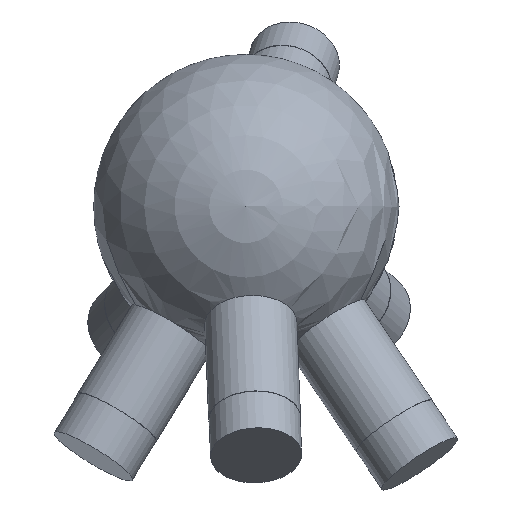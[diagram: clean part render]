
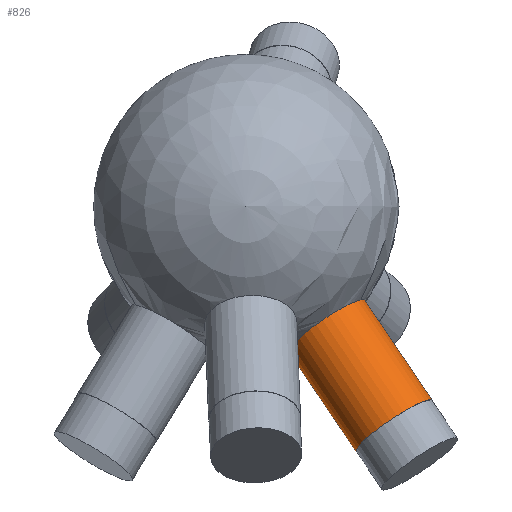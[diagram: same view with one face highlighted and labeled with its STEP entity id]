
A CAD part, top view. The second image highlights one B-rep face of the part: STEP entity #826.
In plain terms, the highlighted cylindrical face has radius 6 mm (diameter 12 mm), a full revolution.
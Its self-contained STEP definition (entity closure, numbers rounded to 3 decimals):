
#35 = SPHERICAL_SURFACE('',#36,20.);
#36 = AXIS2_PLACEMENT_3D('',#37,#38,#39);
#37 = CARTESIAN_POINT('',(0.,0.,0.));
#38 = DIRECTION('',(0.,0.,1.));
#39 = DIRECTION('',(1.,0.,-0.));
#430 = EDGE_CURVE('',#431,#431,#433,.T.);
#431 = VERTEX_POINT('',#432);
#432 = CARTESIAN_POINT('',(5.577,-18.966,3.031)
  );
#433 = SURFACE_CURVE('',#434,(#439,#501),.PCURVE_S1.);
#434 = CIRCLE('',#435,6.);
#435 = AXIS2_PLACEMENT_3D('',#436,#437,#438);
#436 = CARTESIAN_POINT('',(10.548,-15.606,3.031
    ));
#437 = DIRECTION('',(0.553,-0.818,0.159));
#438 = DIRECTION('',(0.829,0.56,0.));
#439 = PCURVE('',#35,#440);
#440 = DEFINITIONAL_REPRESENTATION('',(#441),#500);
#441 = B_SPLINE_CURVE_WITH_KNOTS('',8,(#442,#443,#444,#445,#446,#447,
    #448,#449,#450,#451,#452,#453,#454,#455,#456,#457,#458,#459,#460,
    #461,#462,#463,#464,#465,#466,#467,#468,#469,#470,#471,#472,#473,
    #474,#475,#476,#477,#478,#479,#480,#481,#482,#483,#484,#485,#486,
    #487,#488,#489,#490,#491,#492,#493,#494,#495,#496,#497,#498,#499),
  .UNSPECIFIED.,.F.,.F.,(9,7,7,7,7,7,7,7,9),(3.142,
    3.927,4.614,5.216,6.268,
    7.057,7.649,8.537,9.425),
  .UNSPECIFIED.);
#442 = CARTESIAN_POINT('',(4.998,0.152));
#443 = CARTESIAN_POINT('',(5.,0.123));
#444 = CARTESIAN_POINT('',(5.004,0.093));
#445 = CARTESIAN_POINT('',(5.012,0.065));
#446 = CARTESIAN_POINT('',(5.023,0.037));
#447 = CARTESIAN_POINT('',(5.036,0.01));
#448 = CARTESIAN_POINT('',(5.053,-0.014));
#449 = CARTESIAN_POINT('',(5.072,-0.037));
#450 = CARTESIAN_POINT('',(5.111,-0.076));
#451 = CARTESIAN_POINT('',(5.131,-0.092));
#452 = CARTESIAN_POINT('',(5.153,-0.107));
#453 = CARTESIAN_POINT('',(5.176,-0.119));
#454 = CARTESIAN_POINT('',(5.2,-0.129));
#455 = CARTESIAN_POINT('',(5.225,-0.136));
#456 = CARTESIAN_POINT('',(5.251,-0.141));
#457 = CARTESIAN_POINT('',(5.3,-0.146));
#458 = CARTESIAN_POINT('',(5.323,-0.146));
#459 = CARTESIAN_POINT('',(5.345,-0.145));
#460 = CARTESIAN_POINT('',(5.368,-0.141));
#461 = CARTESIAN_POINT('',(5.39,-0.135));
#462 = CARTESIAN_POINT('',(5.412,-0.128));
#463 = CARTESIAN_POINT('',(5.433,-0.119));
#464 = CARTESIAN_POINT('',(5.488,-0.089));
#465 = CARTESIAN_POINT('',(5.52,-0.065));
#466 = CARTESIAN_POINT('',(5.548,-0.037));
#467 = CARTESIAN_POINT('',(5.572,-0.004));
#468 = CARTESIAN_POINT('',(5.59,0.031));
#469 = CARTESIAN_POINT('',(5.604,0.069));
#470 = CARTESIAN_POINT('',(5.612,0.108));
#471 = CARTESIAN_POINT('',(5.617,0.177));
#472 = CARTESIAN_POINT('',(5.615,0.207));
#473 = CARTESIAN_POINT('',(5.611,0.236));
#474 = CARTESIAN_POINT('',(5.603,0.265));
#475 = CARTESIAN_POINT('',(5.592,0.293));
#476 = CARTESIAN_POINT('',(5.577,0.32));
#477 = CARTESIAN_POINT('',(5.559,0.344));
#478 = CARTESIAN_POINT('',(5.523,0.384));
#479 = CARTESIAN_POINT('',(5.506,0.399));
#480 = CARTESIAN_POINT('',(5.487,0.413));
#481 = CARTESIAN_POINT('',(5.467,0.426));
#482 = CARTESIAN_POINT('',(5.445,0.436));
#483 = CARTESIAN_POINT('',(5.422,0.445));
#484 = CARTESIAN_POINT('',(5.399,0.452));
#485 = CARTESIAN_POINT('',(5.339,0.465));
#486 = CARTESIAN_POINT('',(5.301,0.468));
#487 = CARTESIAN_POINT('',(5.263,0.466));
#488 = CARTESIAN_POINT('',(5.226,0.459));
#489 = CARTESIAN_POINT('',(5.19,0.448));
#490 = CARTESIAN_POINT('',(5.157,0.433));
#491 = CARTESIAN_POINT('',(5.127,0.414));
#492 = CARTESIAN_POINT('',(5.074,0.369));
#493 = CARTESIAN_POINT('',(5.051,0.343));
#494 = CARTESIAN_POINT('',(5.032,0.315));
#495 = CARTESIAN_POINT('',(5.017,0.284));
#496 = CARTESIAN_POINT('',(5.006,0.252));
#497 = CARTESIAN_POINT('',(4.999,0.219));
#498 = CARTESIAN_POINT('',(4.997,0.185));
#499 = CARTESIAN_POINT('',(4.998,0.152));
#500 = ( GEOMETRIC_REPRESENTATION_CONTEXT(2) 
PARAMETRIC_REPRESENTATION_CONTEXT() REPRESENTATION_CONTEXT('2D SPACE',''
  ) );
#501 = PCURVE('',#502,#507);
#502 = CYLINDRICAL_SURFACE('',#503,6.);
#503 = AXIS2_PLACEMENT_3D('',#504,#505,#506);
#504 = CARTESIAN_POINT('',(0.,0.,0.));
#505 = DIRECTION('',(0.553,-0.818,0.159));
#506 = DIRECTION('',(-0.829,-0.56,0.
    ));
#507 = DEFINITIONAL_REPRESENTATION('',(#508),#512);
#508 = LINE('',#509,#510);
#509 = CARTESIAN_POINT('',(-3.142,19.079));
#510 = VECTOR('',#511,1.);
#511 = DIRECTION('',(1.,0.));
#512 = ( GEOMETRIC_REPRESENTATION_CONTEXT(2) 
PARAMETRIC_REPRESENTATION_CONTEXT() REPRESENTATION_CONTEXT('2D SPACE',''
  ) );
#826 = ADVANCED_FACE('',(#827),#502,.T.);
#827 = FACE_BOUND('',#828,.T.);
#828 = EDGE_LOOP('',(#829,#852,#879,#880));
#829 = ORIENTED_EDGE('',*,*,#830,.T.);
#830 = EDGE_CURVE('',#431,#831,#833,.T.);
#831 = VERTEX_POINT('',#832);
#832 = CARTESIAN_POINT('',(14.4,-32.021,
    5.567));
#833 = SEAM_CURVE('',#834,(#838,#845),.PCURVE_S1.);
#834 = LINE('',#835,#836);
#835 = CARTESIAN_POINT('',(-4.971,-3.36,
    0.));
#836 = VECTOR('',#837,1.);
#837 = DIRECTION('',(0.553,-0.818,0.159));
#838 = PCURVE('',#502,#839);
#839 = DEFINITIONAL_REPRESENTATION('',(#840),#844);
#840 = LINE('',#841,#842);
#841 = CARTESIAN_POINT('',(6.283,-0.));
#842 = VECTOR('',#843,1.);
#843 = DIRECTION('',(0.,1.));
#844 = ( GEOMETRIC_REPRESENTATION_CONTEXT(2) 
PARAMETRIC_REPRESENTATION_CONTEXT() REPRESENTATION_CONTEXT('2D SPACE',''
  ) );
#845 = PCURVE('',#502,#846);
#846 = DEFINITIONAL_REPRESENTATION('',(#847),#851);
#847 = LINE('',#848,#849);
#848 = CARTESIAN_POINT('',(0.,-0.));
#849 = VECTOR('',#850,1.);
#850 = DIRECTION('',(0.,1.));
#851 = ( GEOMETRIC_REPRESENTATION_CONTEXT(2) 
PARAMETRIC_REPRESENTATION_CONTEXT() REPRESENTATION_CONTEXT('2D SPACE',''
  ) );
#852 = ORIENTED_EDGE('',*,*,#853,.F.);
#853 = EDGE_CURVE('',#831,#831,#854,.T.);
#854 = SURFACE_CURVE('',#855,(#860,#867),.PCURVE_S1.);
#855 = CIRCLE('',#856,6.);
#856 = AXIS2_PLACEMENT_3D('',#857,#858,#859);
#857 = CARTESIAN_POINT('',(19.371,-28.661,
    5.567));
#858 = DIRECTION('',(0.553,-0.818,0.159));
#859 = DIRECTION('',(-0.829,-0.56,0.
    ));
#860 = PCURVE('',#502,#861);
#861 = DEFINITIONAL_REPRESENTATION('',(#862),#866);
#862 = LINE('',#863,#864);
#863 = CARTESIAN_POINT('',(0.,35.039));
#864 = VECTOR('',#865,1.);
#865 = DIRECTION('',(1.,0.));
#866 = ( GEOMETRIC_REPRESENTATION_CONTEXT(2) 
PARAMETRIC_REPRESENTATION_CONTEXT() REPRESENTATION_CONTEXT('2D SPACE',''
  ) );
#867 = PCURVE('',#868,#873);
#868 = PLANE('',#869);
#869 = AXIS2_PLACEMENT_3D('',#870,#871,#872);
#870 = CARTESIAN_POINT('',(19.371,-28.661,
    5.567));
#871 = DIRECTION('',(0.553,-0.818,0.159));
#872 = DIRECTION('',(-0.829,-0.56,0.
    ));
#873 = DEFINITIONAL_REPRESENTATION('',(#874),#878);
#874 = CIRCLE('',#875,6.);
#875 = AXIS2_PLACEMENT_2D('',#876,#877);
#876 = CARTESIAN_POINT('',(0.,0.));
#877 = DIRECTION('',(1.,0.));
#878 = ( GEOMETRIC_REPRESENTATION_CONTEXT(2) 
PARAMETRIC_REPRESENTATION_CONTEXT() REPRESENTATION_CONTEXT('2D SPACE',''
  ) );
#879 = ORIENTED_EDGE('',*,*,#830,.F.);
#880 = ORIENTED_EDGE('',*,*,#430,.T.);
